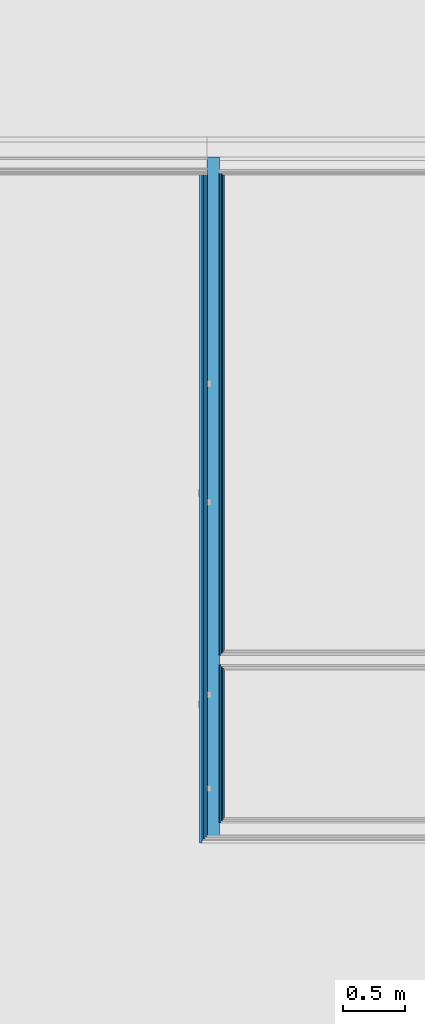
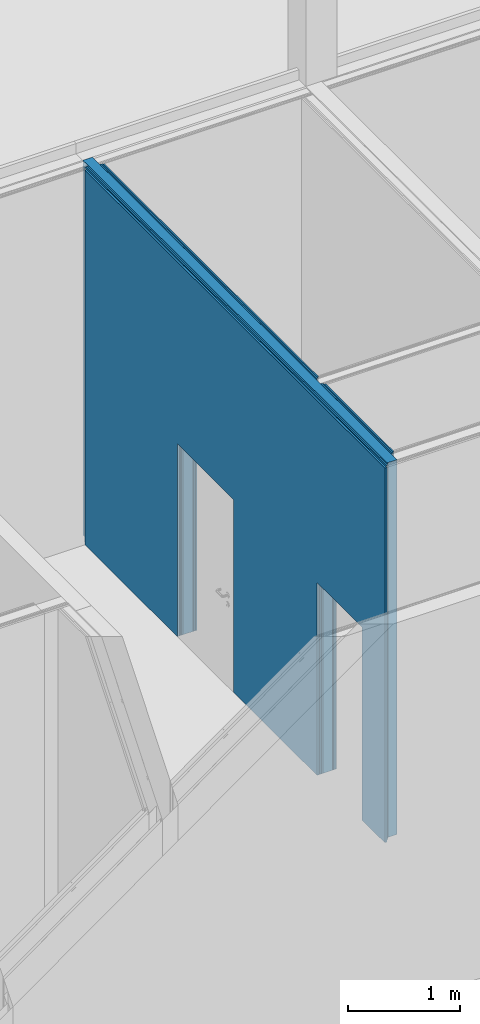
# One storey, part 124 of 260: 8 building element parts, 2 openings, 1 element without a shape of its own.
"""IFC2X3 building model written with IfcOpenShell, lengths in millimetres."""

from ifc_helpers import new_model, entity, si_unit, converted_unit, derived_unit, money_unit, direction, frame, origin_with_axes, place, context, subcontext, project, spatial, faceted_brep, material, type_object, element, aggregate, save


model = new_model("IFC2X3")

# Units and contexts
model_context = context("Model", 3, precision=0.01, world=origin_with_axes(), true_north=direction((0.0, 1.0)))
body_context = subcontext(model_context, "Body", "Model", "MODEL_VIEW")
ifc_project = project(units=[si_unit("LENGTHUNIT", "METRE", prefix="MILLI"), si_unit("AREAUNIT", "SQUARE_METRE"), si_unit("VOLUMEUNIT", "CUBIC_METRE"), converted_unit("PLANEANGLEUNIT", "DEGREE", entity("IfcPlaneAngleMeasure", 0.0174532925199), si_unit("PLANEANGLEUNIT", "RADIAN"), dimensions=[0, 0, 0, 0, 0, 0, 0]), money_unit("EUR"), converted_unit("TIMEUNIT", "Year", entity("IfcTimeMeasure", 31556926.0), si_unit("TIMEUNIT", "SECOND"), dimensions=[0, 0, 1, 0, 0, 0, 0]), si_unit("MASSUNIT", "GRAM", prefix="KILO"), si_unit("THERMODYNAMICTEMPERATUREUNIT", "DEGREE_CELSIUS"), si_unit("LUMINOUSINTENSITYUNIT", "LUMEN"), si_unit("ENERGYUNIT", "JOULE", prefix="MEGA"), derived_unit("THERMALCONDUCTANCEUNIT", [(si_unit("POWERUNIT", "WATT"), 1), (si_unit("LENGTHUNIT", "METRE"), -1), (si_unit("THERMODYNAMICTEMPERATUREUNIT", "KELVIN"), -1)]), derived_unit("SPECIFICHEATCAPACITYUNIT", [(si_unit("ENERGYUNIT", "JOULE"), 1), (si_unit("MASSUNIT", "GRAM", prefix="KILO"), -1), (si_unit("THERMODYNAMICTEMPERATUREUNIT", "KELVIN"), -1)]), derived_unit("MASSDENSITYUNIT", [(si_unit("MASSUNIT", "GRAM", prefix="KILO"), 1), (si_unit("VOLUMEUNIT", "CUBIC_METRE"), -1)])], contexts=[model_context])

# Site, building, storey
site_placement = place(None, origin_with_axes())
site = spatial("IfcSite", under=ifc_project, at=site_placement, Name="Kolde pst 67a", CompositionType="ELEMENT")
building_placement = place(site_placement, origin_with_axes())
building = spatial("IfcBuilding", under=site, at=building_placement, Name="Riigigümnaasium", CompositionType="ELEMENT")
storey_placement = place(building_placement, origin_with_axes())
storey = spatial("IfcBuildingStorey", under=building, at=storey_placement, Name="1. korrus", CompositionType="ELEMENT", Elevation=0.0)

# Wall, openings, building element parts
wall_type = type_object("IfcWallType", Name="SS-PK-10/2_vill100+dold+plaat 200", PredefinedType="NOTDEFINED")
wall_placement = place(storey_placement, frame((13042.740215, 61798.0056602, 0.0), z_axis=(0.0, 0.0, 1.0), x_axis=(0.0, 1.0, 0.0)))
wall = element("IfcWall", 1, at=wall_placement, inside=storey, type_object=wall_type, Name="Sisesein")
opening_1_placement = place(wall_placement, frame((3002.00760535, 0.0, 0.0), z_axis=(0.0, 0.0, 1.0), x_axis=(1.0, 0.0, 0.0)))
element("IfcOpeningElement", 2, at=opening_1_placement, cuts=wall, Name="Siseuks", context=body_context, shape_type="Brep", body=[
    faceted_brep([(500.0, -200.0, 2100.0), (500.0, -200.0, 0.0), (500.0, 400.0, 0.0), (500.0, 400.0, 2100.0), (-500.0, -200.0, 2100.0), (-500.0, -200.0, 0.0), (-500.0, 400.0, 0.0), (-500.0, 400.0, 2100.0)], [[[0, 1, 2, 3]], [[0, 4, 5, 1]], [[1, 5, 6, 2]], [[3, 2, 6, 7]], [[4, 0, 3, 7]], [[5, 4, 7, 6]]]),
])
opening_2_placement = place(wall_placement, frame((611.052309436, 0.0, 0.0), z_axis=(0.0, 0.0, 1.0), x_axis=(1.0, 0.0, 0.0)))
element("IfcOpeningElement", 3, at=opening_2_placement, cuts=wall, Name="Siseuks", context=body_context, shape_type="Brep", body=[
    faceted_brep([(-400.0, 400.0, 2100.0), (-400.0, 400.0, 0.0), (-400.0, -200.0, 0.0), (-400.0, -200.0, 2100.0), (400.0, 400.0, 2100.0), (400.0, 400.0, 0.0), (400.0, -200.0, 0.0), (400.0, -200.0, 2100.0)], [[[0, 1, 2, 3]], [[0, 4, 5, 1]], [[1, 5, 6, 2]], [[3, 2, 6, 7]], [[4, 0, 3, 7]], [[5, 4, 7, 6]]]),
])
ifc_material_1 = material(Name="_VIIMISTLUSKIHT - viimistlus vastavalt SA osale")
building_element_part_1_placement = place(wall_placement, origin_with_axes())
building_element_part_1 = element("IfcBuildingElementPart", 4, at=building_element_part_1_placement, material=ifc_material_1, Name="_VIIMISTLUSKIHT - viimistlus vastavalt SA osale", context=body_context, shape_type="Brep", body=[
    faceted_brep([(211.052309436, 180.0, 0.0), (211.052309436, 180.0, 2100.0), (1011.05230944, 180.0, 2100.0), (1011.05230944, 180.0, 0.0), (2502.00760535, 180.0, 0.0), (2502.00760535, 180.0, 2100.0), (3502.00760535, 180.0, 2100.0), (3502.00760535, 180.0, 0.0), (5151.99149113, 180.0, 0.0), (5151.99149113, 180.0, 4080.0), (-200.0, 180.0, 4080.0), (-200.0, 180.0, 0.0), (211.052309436, 200.0, 0.0), (211.052309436, 200.0, 2100.0), (1011.05230944, 200.0, 2100.0), (1011.05230944, 200.0, 0.0), (2502.00760535, 200.0, 0.0), (2502.00760535, 200.0, 2100.0), (3502.00760535, 200.0, 2100.0), (3502.00760535, 200.0, 0.0), (5151.99149113, 200.0, 0.0), (5151.99149113, 200.0, 4080.0), (-200.0, 200.0, 4080.0), (-200.0, 200.0, 0.0)], [[[0, 1, 2, 3, 4, 5, 6, 7, 8, 9, 10, 11]], [[1, 0, 12, 13]], [[2, 1, 13, 14]], [[3, 2, 14, 15]], [[3, 15, 16, 4]], [[4, 16, 17, 5]], [[5, 17, 18, 6]], [[6, 18, 19, 7]], [[19, 20, 8, 7]], [[8, 20, 21, 9]], [[21, 22, 10, 9]], [[23, 11, 10, 22]], [[12, 0, 11, 23]], [[13, 12, 23, 22, 21, 20, 19, 18, 17, 16, 15, 14]]]),
])
ifc_material_2 = material(Name="_KARKASS - eriprofiilkinnitus vastavalt sisemisele plaatviimistlusele")
building_element_part_2_placement = place(wall_placement, origin_with_axes())
building_element_part_2 = element("IfcBuildingElementPart", 5, at=building_element_part_2_placement, material=ifc_material_2, Name="_KARKASS - eriprofiilkinnitus vastavalt sisemisele plaatviimistlusele", context=body_context, shape_type="Brep", body=[
    faceted_brep([(211.052309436, 170.0, 0.0), (211.052309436, 170.0, 2100.0), (1011.05230944, 170.0, 2100.0), (1011.05230944, 170.0, 0.0), (2502.00760535, 170.0, 0.0), (2502.00760535, 170.0, 2100.0), (3502.00760535, 170.0, 2100.0), (3502.00760535, 170.0, 0.0), (5191.99149113, 170.0, 0.0), (5191.99149113, 170.0, 4080.0), (-180.0, 170.0, 4080.0), (-180.0, 170.0, 0.0), (211.052309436, 180.0, 0.0), (211.052309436, 180.0, 2100.0), (1011.05230944, 180.0, 2100.0), (1011.05230944, 180.0, 0.0), (2502.00760535, 180.0, 0.0), (2502.00760535, 180.0, 2100.0), (3502.00760535, 180.0, 2100.0), (3502.00760535, 180.0, 0.0), (5191.99149113, 180.0, 0.0), (5191.99149113, 180.0, 4080.0), (-180.0, 180.0, 4080.0), (-180.0, 180.0, 0.0)], [[[0, 1, 2, 3, 4, 5, 6, 7, 8, 9, 10, 11]], [[1, 0, 12, 13]], [[2, 1, 13, 14]], [[3, 2, 14, 15]], [[3, 15, 16, 4]], [[4, 16, 17, 5]], [[5, 17, 18, 6]], [[6, 18, 19, 7]], [[19, 20, 8, 7]], [[8, 20, 21, 9]], [[21, 22, 10, 9]], [[23, 11, 10, 22]], [[12, 0, 11, 23]], [[13, 12, 23, 22, 21, 20, 19, 18, 17, 16, 15, 14]]]),
])
ifc_material_3 = material(Name="_PLAATMATERJAL - tuletõkkekipsplaat, Knauf Red GKF või samaväärne")
building_element_part_3_placement = place(wall_placement, origin_with_axes())
building_element_part_3 = element("IfcBuildingElementPart", 6, at=building_element_part_3_placement, material=ifc_material_3, Name="_PLAATMATERJAL - tuletõkkekipsplaat, Knauf Red GKF või samaväärne", context=body_context, shape_type="Brep", body=[
    faceted_brep([(211.052309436, 155.0, 0.0), (211.052309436, 155.0, 2100.0), (1011.05230944, 155.0, 2100.0), (1011.05230944, 155.0, 0.0), (2502.00760535, 155.0, 0.0), (2502.00760535, 155.0, 2100.0), (3502.00760535, 155.0, 2100.0), (3502.00760535, 155.0, 0.0), (5191.99149113, 155.0, 0.0), (5191.99149113, 155.0, 4080.0), (-170.0, 155.0, 4080.0), (-170.0, 155.0, 0.0), (211.052309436, 170.0, 0.0), (211.052309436, 170.0, 2100.0), (1011.05230944, 170.0, 2100.0), (1011.05230944, 170.0, 0.0), (2502.00760535, 170.0, 0.0), (2502.00760535, 170.0, 2100.0), (3502.00760535, 170.0, 2100.0), (3502.00760535, 170.0, 0.0), (5191.99149113, 170.0, 0.0), (5191.99149113, 170.0, 4080.0), (-170.0, 170.0, 4080.0), (-170.0, 170.0, 0.0)], [[[0, 1, 2, 3, 4, 5, 6, 7, 8, 9, 10, 11]], [[1, 0, 12, 13]], [[2, 1, 13, 14]], [[3, 2, 14, 15]], [[3, 15, 16, 4]], [[4, 16, 17, 5]], [[5, 17, 18, 6]], [[6, 18, 19, 7]], [[19, 20, 8, 7]], [[8, 20, 21, 9]], [[21, 22, 10, 9]], [[23, 11, 10, 22]], [[12, 0, 11, 23]], [[13, 12, 23, 22, 21, 20, 19, 18, 17, 16, 15, 14]]]),
])
building_element_part_4_placement = place(wall_placement, origin_with_axes())
building_element_part_4 = element("IfcBuildingElementPart", 7, at=building_element_part_4_placement, material=ifc_material_3, Name="_PLAATMATERJAL - tuletõkkekipsplaat, Knauf Red GKF või samaväärne", context=body_context, shape_type="Brep", body=[
    faceted_brep([(211.052309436, 140.0, 0.0), (211.052309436, 140.0, 2100.0), (1011.05230944, 140.0, 2100.0), (1011.05230944, 140.0, 0.0), (2502.00760535, 140.0, 0.0), (2502.00760535, 140.0, 2100.0), (3502.00760535, 140.0, 2100.0), (3502.00760535, 140.0, 0.0), (5191.99149113, 140.0, 0.0), (5191.99149113, 140.0, 4080.0), (-155.0, 140.0, 4080.0), (-155.0, 140.0, 0.0), (211.052309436, 155.0, 0.0), (211.052309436, 155.0, 2100.0), (1011.05230944, 155.0, 2100.0), (1011.05230944, 155.0, 0.0), (2502.00760535, 155.0, 0.0), (2502.00760535, 155.0, 2100.0), (3502.00760535, 155.0, 2100.0), (3502.00760535, 155.0, 0.0), (5191.99149113, 155.0, 0.0), (5191.99149113, 155.0, 4080.0), (-155.0, 155.0, 4080.0), (-155.0, 155.0, 0.0)], [[[0, 1, 2, 3, 4, 5, 6, 7, 8, 9, 10, 11]], [[1, 0, 12, 13]], [[2, 1, 13, 14]], [[3, 2, 14, 15]], [[3, 15, 16, 4]], [[4, 16, 17, 5]], [[5, 17, 18, 6]], [[6, 18, 19, 7]], [[19, 20, 8, 7]], [[8, 20, 21, 9]], [[21, 22, 10, 9]], [[23, 11, 10, 22]], [[12, 0, 11, 23]], [[13, 12, 23, 22, 21, 20, 19, 18, 17, 16, 15, 14]]]),
])
ifc_material_4 = material(Name="_KARKASS - puitpruss 100x50mm vertikaalne, samm 600mm, vahel mineraalvill, helineeldetegur αw = 1.0, ISOVER ACOUSTIC 100mm või samaväärne")
building_element_part_5_placement = place(wall_placement, origin_with_axes())
building_element_part_5 = element("IfcBuildingElementPart", 8, at=building_element_part_5_placement, material=ifc_material_4, Name="_KARKASS - puitpruss 100x50mm vertikaalne, samm 600mm, vahel mineraalvill, helineeldetegur αw = 1.0, ISOVER ACOUSTIC 100mm või samaväärne", context=body_context, shape_type="Brep", body=[
    faceted_brep([(211.052309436, 40.0, 0.0), (211.052309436, 40.0, 2100.0), (1011.05230944, 40.0, 2100.0), (1011.05230944, 40.0, 0.0), (2502.00760535, 40.0, 0.0), (2502.00760535, 40.0, 2100.0), (3502.00760535, 40.0, 2100.0), (3502.00760535, 40.0, 0.0), (5291.99149113, 40.0, 0.0), (5291.99149113, 40.0, 4080.0), (-140.0, 40.0, 4080.0), (-140.0, 40.0, 0.0), (211.052309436, 140.0, 0.0), (211.052309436, 140.0, 2100.0), (1011.05230944, 140.0, 2100.0), (1011.05230944, 140.0, 0.0), (2502.00760535, 140.0, 0.0), (2502.00760535, 140.0, 2100.0), (3502.00760535, 140.0, 2100.0), (3502.00760535, 140.0, 0.0), (5291.99149113, 140.0, 0.0), (5291.99149113, 140.0, 4080.0), (-140.0, 140.0, 4080.0), (-140.0, 140.0, 0.0)], [[[0, 1, 2, 3, 4, 5, 6, 7, 8, 9, 10, 11]], [[1, 0, 12, 13]], [[2, 1, 13, 14]], [[3, 2, 14, 15]], [[3, 15, 16, 4]], [[4, 16, 17, 5]], [[5, 17, 18, 6]], [[6, 18, 19, 7]], [[19, 20, 8, 7]], [[8, 20, 21, 9]], [[21, 22, 10, 9]], [[23, 11, 10, 22]], [[12, 0, 11, 23]], [[13, 12, 23, 22, 21, 20, 19, 18, 17, 16, 15, 14]]]),
])
ifc_material_5 = material(Name="_PLAATMATERJAL - kipsplaat veekindel")
building_element_part_6_placement = place(wall_placement, origin_with_axes())
building_element_part_6 = element("IfcBuildingElementPart", 9, at=building_element_part_6_placement, material=ifc_material_5, Name="_PLAATMATERJAL - kipsplaat veekindel", context=body_context, shape_type="Brep", body=[
    faceted_brep([(211.052309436, 27.5, 0.0), (211.052309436, 27.5, 2100.0), (1011.05230944, 27.5, 2100.0), (1011.05230944, 27.5, 0.0), (1226.5536395, 27.5, 0.0), (1226.5536395, 27.5, 4080.0), (-40.0, 27.5, 4080.0), (-40.0, 27.5, 0.0), (211.052309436, 40.0, 0.0), (211.052309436, 40.0, 2100.0), (1011.05230944, 40.0, 2100.0), (1011.05230944, 40.0, 0.0), (1226.5536395, 40.0, 0.0), (1226.5536395, 40.0, 4080.0), (-40.0, 40.0, 4080.0), (-40.0, 40.0, 0.0)], [[[0, 1, 2, 3, 4, 5, 6, 7]], [[1, 0, 8, 9]], [[2, 1, 9, 10]], [[3, 2, 10, 11]], [[3, 11, 12, 4]], [[5, 4, 12, 13]], [[5, 13, 14, 6]], [[14, 15, 7, 6]], [[8, 0, 7, 15]], [[9, 8, 15, 14, 13, 12, 11, 10]]]),
    faceted_brep([(2502.00760535, 27.5, 0.0), (2502.00760535, 27.5, 2100.0), (3502.00760535, 27.5, 2100.0), (3502.00760535, 27.5, 0.0), (5161.99149113, 27.5, 0.0), (5161.99149113, 27.5, 4080.0), (1301.5536395, 27.5, 4080.0), (1301.5536395, 27.5, 0.0), (2502.00760535, 40.0, 0.0), (2502.00760535, 40.0, 2100.0), (3502.00760535, 40.0, 2100.0), (3502.00760535, 40.0, 0.0), (5161.99149113, 40.0, 0.0), (5161.99149113, 40.0, 4080.0), (1301.5536395, 40.0, 4080.0), (1301.5536395, 40.0, 0.0)], [[[0, 1, 2, 3, 4, 5, 6, 7]], [[1, 0, 8, 9]], [[2, 1, 9, 10]], [[3, 2, 10, 11]], [[3, 11, 12, 4]], [[5, 4, 12, 13]], [[5, 13, 14, 6]], [[14, 15, 7, 6]], [[8, 0, 7, 15]], [[9, 8, 15, 14, 13, 12, 11, 10]]]),
])
building_element_part_7_placement = place(wall_placement, origin_with_axes())
building_element_part_7 = element("IfcBuildingElementPart", 10, at=building_element_part_7_placement, material=ifc_material_5, Name="_PLAATMATERJAL - kipsplaat veekindel", context=body_context, shape_type="Brep", body=[
    faceted_brep([(211.052309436, 15.0, 0.0), (211.052309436, 15.0, 2100.0), (1011.05230944, 15.0, 2100.0), (1011.05230944, 15.0, 0.0), (1214.0536395, 15.0, 0.0), (1214.0536395, 15.0, 4080.0), (-27.5, 15.0, 4080.0), (-27.5, 15.0, 0.0), (211.052309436, 27.5, 0.0), (211.052309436, 27.5, 2100.0), (1011.05230944, 27.5, 2100.0), (1011.05230944, 27.5, 0.0), (1214.0536395, 27.5, 0.0), (1214.0536395, 27.5, 4080.0), (-27.5, 27.5, 4080.0), (-27.5, 27.5, 0.0)], [[[0, 1, 2, 3, 4, 5, 6, 7]], [[1, 0, 8, 9]], [[2, 1, 9, 10]], [[3, 2, 10, 11]], [[3, 11, 12, 4]], [[5, 4, 12, 13]], [[5, 13, 14, 6]], [[14, 15, 7, 6]], [[8, 0, 7, 15]], [[9, 8, 15, 14, 13, 12, 11, 10]]]),
    faceted_brep([(2502.00760535, 15.0, 0.0), (2502.00760535, 15.0, 2100.0), (3502.00760535, 15.0, 2100.0), (3502.00760535, 15.0, 0.0), (5161.99149113, 15.0, 0.0), (5161.99149113, 15.0, 4080.0), (1314.0536395, 15.0, 4080.0), (1314.0536395, 15.0, 0.0), (2502.00760535, 27.5, 0.0), (2502.00760535, 27.5, 2100.0), (3502.00760535, 27.5, 2100.0), (3502.00760535, 27.5, 0.0), (5161.99149113, 27.5, 0.0), (5161.99149113, 27.5, 4080.0), (1314.0536395, 27.5, 4080.0), (1314.0536395, 27.5, 0.0)], [[[0, 1, 2, 3, 4, 5, 6, 7]], [[1, 0, 8, 9]], [[2, 1, 9, 10]], [[3, 2, 10, 11]], [[3, 11, 12, 4]], [[5, 4, 12, 13]], [[5, 13, 14, 6]], [[14, 15, 7, 6]], [[8, 0, 7, 15]], [[9, 8, 15, 14, 13, 12, 11, 10]]]),
])
building_element_part_8_placement = place(wall_placement, origin_with_axes())
building_element_part_8 = element("IfcBuildingElementPart", 11, at=building_element_part_8_placement, material=ifc_material_1, Name="_VIIMISTLUSKIHT - viimistlus vastavalt SA osale", context=body_context, shape_type="Brep", body=[
    faceted_brep([(211.052309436, 0.0, 0.0), (211.052309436, 0.0, 2100.0), (1011.05230944, 0.0, 2100.0), (1011.05230944, 0.0, 0.0), (1201.5536395, 0.0, 0.0), (1201.5536395, 0.0, 4080.0), (-15.0, 0.0, 4080.0), (-15.0, 0.0, 0.0), (211.052309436, 15.0, 0.0), (211.052309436, 15.0, 2100.0), (1011.05230944, 15.0, 2100.0), (1011.05230944, 15.0, 0.0), (1201.5536395, 15.0, 0.0), (1201.5536395, 15.0, 4080.0), (-15.0, 15.0, 4080.0), (-15.0, 15.0, 0.0)], [[[0, 1, 2, 3, 4, 5, 6, 7]], [[1, 0, 8, 9]], [[2, 1, 9, 10]], [[3, 2, 10, 11]], [[3, 11, 12, 4]], [[5, 4, 12, 13]], [[5, 13, 14, 6]], [[14, 15, 7, 6]], [[8, 0, 7, 15]], [[9, 8, 15, 14, 13, 12, 11, 10]]]),
    faceted_brep([(2502.00760535, 0.0, 0.0), (2502.00760535, 0.0, 2100.0), (3502.00760535, 0.0, 2100.0), (3502.00760535, 0.0, 0.0), (5151.99149113, 0.0, 0.0), (5151.99149113, 0.0, 4080.0), (1326.5536395, 0.0, 4080.0), (1326.5536395, 0.0, 0.0), (2502.00760535, 15.0, 0.0), (2502.00760535, 15.0, 2100.0), (3502.00760535, 15.0, 2100.0), (3502.00760535, 15.0, 0.0), (5151.99149113, 15.0, 0.0), (5151.99149113, 15.0, 4080.0), (1326.5536395, 15.0, 4080.0), (1326.5536395, 15.0, 0.0)], [[[0, 1, 2, 3, 4, 5, 6, 7]], [[1, 0, 8, 9]], [[2, 1, 9, 10]], [[3, 2, 10, 11]], [[3, 11, 12, 4]], [[5, 4, 12, 13]], [[5, 13, 14, 6]], [[14, 15, 7, 6]], [[8, 0, 7, 15]], [[9, 8, 15, 14, 13, 12, 11, 10]]]),
])
aggregate(wall, [building_element_part_1, building_element_part_2, building_element_part_3, building_element_part_4, building_element_part_5, building_element_part_6, building_element_part_7, building_element_part_8])

save(model, "model.ifc")
